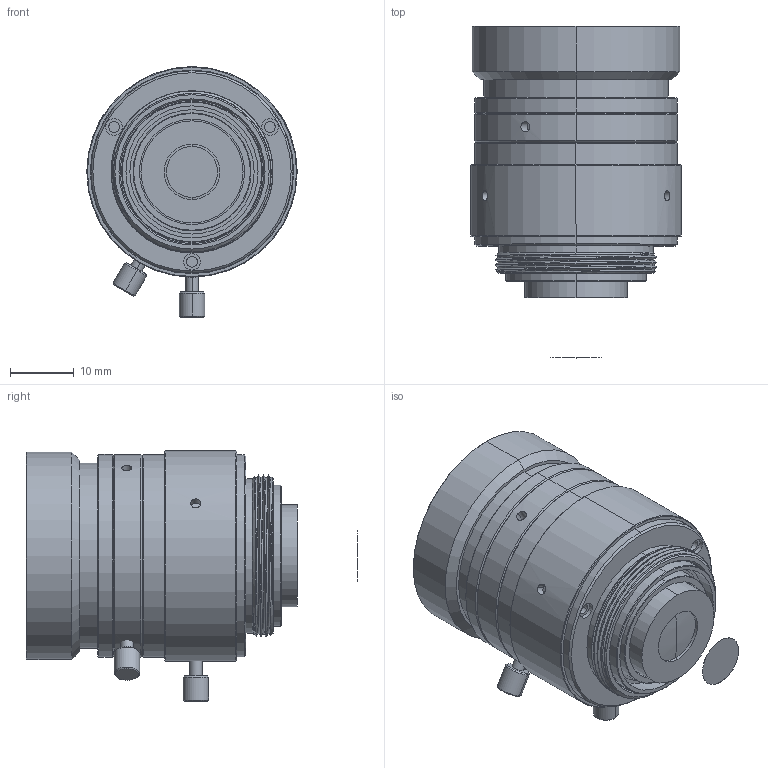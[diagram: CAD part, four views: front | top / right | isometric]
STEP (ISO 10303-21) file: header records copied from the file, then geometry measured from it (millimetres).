
FILE_DESCRIPTION((''),'2;1');
FILE_NAME('PHX-8-00_ASM','2020-06-05T',('sirtec'),(''),'CREO PARAMETRIC BY PTC INC, 2014190','CREO PARAMETRIC BY PTC INC, 2014190','');
FILE_SCHEMA(('CONFIG_CONTROL_DESIGN'));
Length unit declared in the file: millimetre
Products named in the file (16): PHX-8-201; PHX-8-101; PHX-16-301; PHX-8-202; PHX-8-403; PHX-8-109; PHX-16-203; PHX-8-401; PHX-8-G1; PHX-8-G9; PHX-8-102; PHX-8-108; PHX-16-308; PHX-16-501; PHX-8-XM; PHX-8-00_ASM
Assembly tree (16 placements, depth 2):
  PHX-8-00_ASM
    PHX-8-201
    PHX-8-101
    PHX-16-301
    PHX-8-202
    PHX-8-403
    PHX-8-109
    PHX-16-203
    PHX-8-401
    PHX-8-G1
    PHX-8-G9
    PHX-8-102
    PHX-8-108
    PHX-16-308
    PHX-16-501  x2
    PHX-8-XM
Bounding box: 33 x 52.02 x 39.31 mm (x, y, z)
Volume: 18545.8 mm3; surface area: 28615.4 mm2
Topology: 16 solids, 16 shells, 356 faces, 763 edges, 479 vertices
Faces by surface type: cylinder 179, plane 82, cone 72, bspline 15, sphere 8
Entity records: 13294 total; most frequent: CARTESIAN_POINT 5294, DIRECTION 1759, ORIENTED_EDGE 1462, AXIS2_PLACEMENT_3D 751, EDGE_CURVE 731, VERTEX_POINT 465, EDGE_LOOP 430, CIRCLE 391
